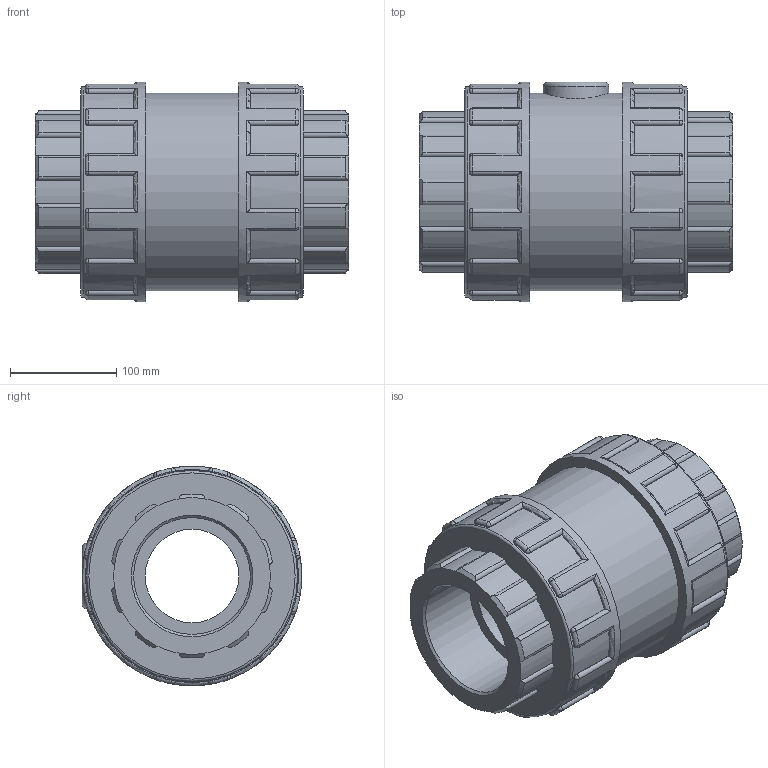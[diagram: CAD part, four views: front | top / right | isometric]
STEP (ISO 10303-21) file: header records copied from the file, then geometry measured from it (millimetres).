
FILE_DESCRIPTION(/* description */ ('PLASSON CHECK VALVE THR 4" PTFE COATED SPRING + EPDM O-RING'),/* implementation_level */ '2;1');
FILE_NAME(/* name */ 'C:\Dropbox\KIMPROJECTS-Inventor\99-16-3568-Processing\PVC Catalog 2017\110810 - 110610 110910 - 110010\11081040.ipt.stp',/* time_stamp */ '2017-12-07T16:08:20+02:00',/* author */ ('KIM'),/* organization */ (''),/* preprocessor_version */ 'ST-DEVELOPER v15.6',/* originating_system */ 'Autodesk Inventor 2015',/* authorisation */ '');
FILE_SCHEMA (('AUTOMOTIVE_DESIGN { 1 0 10303 214 3 1 1 }'));
Length unit declared in the file: millimetre
Products named in the file (1): 11081040
Bounding box: 295 x 207 x 207 mm (x, y, z)
Volume: 5658537.9 mm3; surface area: 333605.8 mm2
Topology: 1 solids, 1 shells, 411 faces, 1021 edges, 618 vertices
Faces by surface type: cylinder 185, plane 105, torus 51, sphere 48, cone 22
Full cylindrical faces by diameter (mm): 62.1 x1, 88.058 x1, 110.072 x2, 186.3 x1, 198.72 x2, 207 x2
Entity records: 13410 total; most frequent: CARTESIAN_POINT 3631, DIRECTION 2180, ORIENTED_EDGE 1998, EDGE_CURVE 999, AXIS2_PLACEMENT_3D 906, VERTEX_POINT 611, CIRCLE 494, EDGE_LOOP 434
